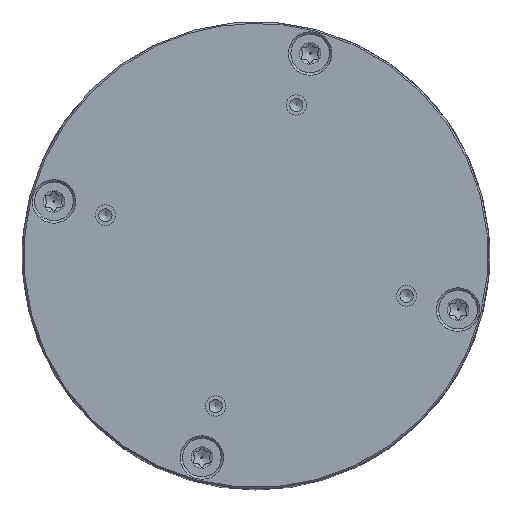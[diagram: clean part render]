
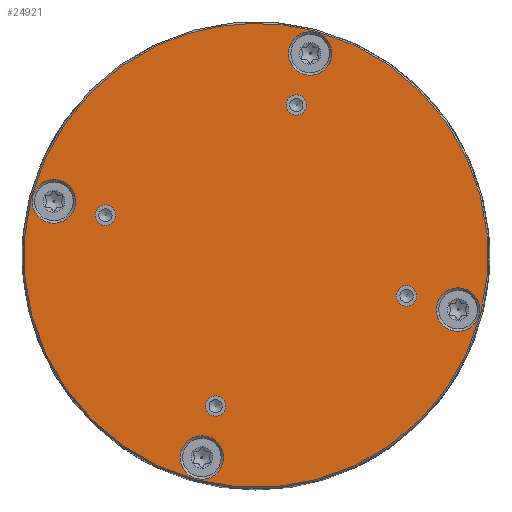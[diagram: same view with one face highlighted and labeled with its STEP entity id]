
A CAD part, top view. The second image highlights one B-rep face of the part: STEP entity #24921.
In plain terms, the highlighted planar face has unit normal (0, 0, 1).
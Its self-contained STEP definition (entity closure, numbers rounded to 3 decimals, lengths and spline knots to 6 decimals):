
#5079=PLANE('',#27555);
#11406=ORIENTED_EDGE('',*,*,#15514,.F.);
#11407=ORIENTED_EDGE('',*,*,#15515,.T.);
#11408=ORIENTED_EDGE('',*,*,#15516,.T.);
#11409=ORIENTED_EDGE('',*,*,#15517,.T.);
#11410=ORIENTED_EDGE('',*,*,#15518,.T.);
#11411=ORIENTED_EDGE('',*,*,#15519,.T.);
#11412=ORIENTED_EDGE('',*,*,#15520,.T.);
#11413=ORIENTED_EDGE('',*,*,#15521,.T.);
#11414=ORIENTED_EDGE('',*,*,#15522,.T.);
#15514=EDGE_CURVE('',#18092,#18092,#19543,.T.);
#15515=EDGE_CURVE('',#18093,#18093,#19544,.T.);
#15516=EDGE_CURVE('',#18094,#18094,#19545,.T.);
#15517=EDGE_CURVE('',#18095,#18095,#19546,.T.);
#15518=EDGE_CURVE('',#18096,#18096,#19547,.T.);
#15519=EDGE_CURVE('',#18097,#18097,#19548,.T.);
#15520=EDGE_CURVE('',#18098,#18098,#19549,.T.);
#15521=EDGE_CURVE('',#18099,#18099,#19550,.T.);
#15522=EDGE_CURVE('',#18100,#18100,#19551,.T.);
#18092=VERTEX_POINT('',#42932);
#18093=VERTEX_POINT('',#42934);
#18094=VERTEX_POINT('',#42936);
#18095=VERTEX_POINT('',#42938);
#18096=VERTEX_POINT('',#42940);
#18097=VERTEX_POINT('',#42942);
#18098=VERTEX_POINT('',#42944);
#18099=VERTEX_POINT('',#42946);
#18100=VERTEX_POINT('',#42948);
#19543=CIRCLE('',#27556,0.0283);
#19544=CIRCLE('',#27557,0.00265);
#19545=CIRCLE('',#27558,0.00265);
#19546=CIRCLE('',#27559,0.00265);
#19547=CIRCLE('',#27560,0.00125);
#19548=CIRCLE('',#27561,0.00125);
#19549=CIRCLE('',#27562,0.00125);
#19550=CIRCLE('',#27563,0.00125);
#19551=CIRCLE('',#27564,0.00265);
#21151=EDGE_LOOP('',(#11406));
#21152=EDGE_LOOP('',(#11407));
#21153=EDGE_LOOP('',(#11408));
#21154=EDGE_LOOP('',(#11409));
#21155=EDGE_LOOP('',(#11410));
#21156=EDGE_LOOP('',(#11411));
#21157=EDGE_LOOP('',(#11412));
#21158=EDGE_LOOP('',(#11413));
#21159=EDGE_LOOP('',(#11414));
#22924=FACE_BOUND('',#21151,.T.);
#22925=FACE_BOUND('',#21152,.T.);
#22926=FACE_BOUND('',#21153,.T.);
#22927=FACE_BOUND('',#21154,.T.);
#22928=FACE_BOUND('',#21155,.T.);
#22929=FACE_BOUND('',#21156,.T.);
#22930=FACE_BOUND('',#21157,.T.);
#22931=FACE_BOUND('',#21158,.T.);
#22932=FACE_BOUND('',#21159,.T.);
#24921=ADVANCED_FACE('',(#22924,#22925,#22926,#22927,#22928,#22929,#22930,
#22931,#22932),#5079,.T.);
#27555=AXIS2_PLACEMENT_3D('',#42930,#34449,#34450);
#27556=AXIS2_PLACEMENT_3D('',#42931,#34451,#34452);
#27557=AXIS2_PLACEMENT_3D('',#42933,#34453,#34454);
#27558=AXIS2_PLACEMENT_3D('',#42935,#34455,#34456);
#27559=AXIS2_PLACEMENT_3D('',#42937,#34457,#34458);
#27560=AXIS2_PLACEMENT_3D('',#42939,#34459,#34460);
#27561=AXIS2_PLACEMENT_3D('',#42941,#34461,#34462);
#27562=AXIS2_PLACEMENT_3D('',#42943,#34463,#34464);
#27563=AXIS2_PLACEMENT_3D('',#42945,#34465,#34466);
#27564=AXIS2_PLACEMENT_3D('',#42947,#34467,#34468);
#34449=DIRECTION('',(0.,0.,1.));
#34450=DIRECTION('',(0.259,0.966,0.));
#34451=DIRECTION('',(0.,0.,-1.));
#34452=DIRECTION('',(0.259,0.966,0.));
#34453=DIRECTION('',(0.,0.,-1.));
#34454=DIRECTION('',(0.966,-0.259,0.));
#34455=DIRECTION('',(0.,0.,-1.));
#34456=DIRECTION('',(-0.259,-0.966,0.));
#34457=DIRECTION('',(0.,0.,-1.));
#34458=DIRECTION('',(-0.966,0.259,0.));
#34459=DIRECTION('',(0.,0.,-1.));
#34460=DIRECTION('',(0.259,0.966,0.));
#34461=DIRECTION('',(0.,0.,-1.));
#34462=DIRECTION('',(0.966,-0.259,0.));
#34463=DIRECTION('',(0.,0.,-1.));
#34464=DIRECTION('',(-0.259,-0.966,0.));
#34465=DIRECTION('',(0.,0.,-1.));
#34466=DIRECTION('',(-0.966,0.259,0.));
#34467=DIRECTION('',(0.,0.,-1.));
#34468=DIRECTION('',(0.259,0.966,0.));
#42930=CARTESIAN_POINT('',(-0.213,0.01235,0.018));
#42931=CARTESIAN_POINT('',(-0.213,0.01235,0.018));
#42932=CARTESIAN_POINT('',(-0.205675,0.039686,0.018));
#42933=CARTESIAN_POINT('',(-0.2196,-0.012281,0.018));
#42934=CARTESIAN_POINT('',(-0.21704,-0.012967,0.018));
#42935=CARTESIAN_POINT('',(-0.237631,0.01895,0.018));
#42936=CARTESIAN_POINT('',(-0.238317,0.01639,0.018));
#42937=CARTESIAN_POINT('',(-0.2064,0.036981,0.018));
#42938=CARTESIAN_POINT('',(-0.20896,0.037667,0.018));
#42939=CARTESIAN_POINT('',(-0.194647,0.007433,0.018));
#42940=CARTESIAN_POINT('',(-0.194324,0.00864,0.018));
#42941=CARTESIAN_POINT('',(-0.217918,-0.006002,0.018));
#42942=CARTESIAN_POINT('',(-0.21671,-0.006326,0.018));
#42943=CARTESIAN_POINT('',(-0.231353,0.017268,0.018));
#42944=CARTESIAN_POINT('',(-0.231676,0.01606,0.018));
#42945=CARTESIAN_POINT('',(-0.208082,0.030703,0.018));
#42946=CARTESIAN_POINT('',(-0.20929,0.031026,0.018));
#42947=CARTESIAN_POINT('',(-0.188369,0.00575,0.018));
#42948=CARTESIAN_POINT('',(-0.187683,0.00831,0.018));
